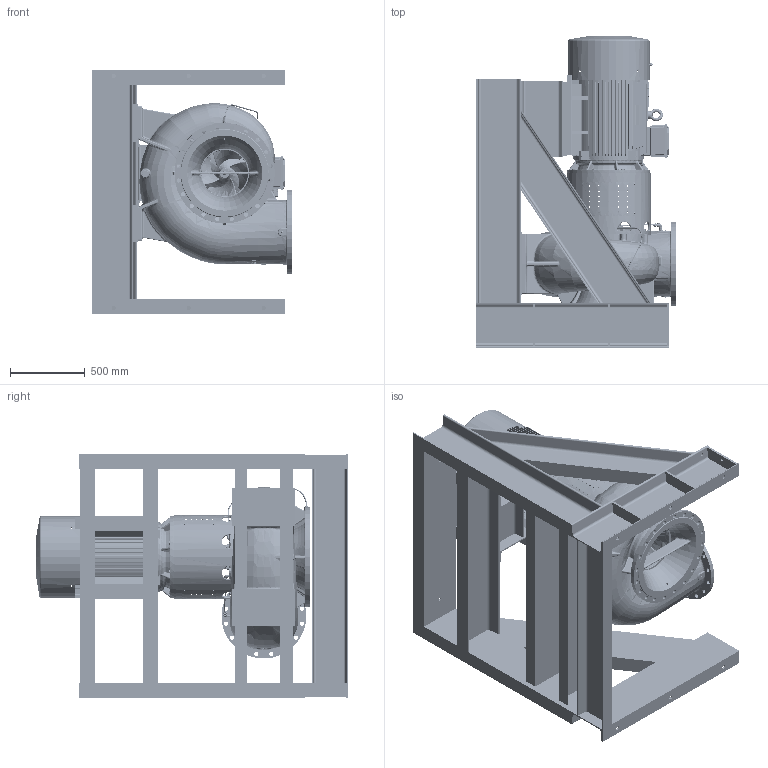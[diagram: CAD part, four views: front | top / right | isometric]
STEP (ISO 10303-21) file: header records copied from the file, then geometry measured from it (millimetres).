
FILE_DESCRIPTION((''),'2;1');
FILE_NAME('NSLV400-390_A02_FO_ASM','2024-05-28T',('maxz'),(''),'PRO/ENGINEER BY PARAMETRIC TECHNOLOGY CORPORATION, 2017170','PRO/ENGINEER BY PARAMETRIC TECHNOLOGY CORPORATION, 2017170','');
FILE_SCHEMA(('CONFIG_CONTROL_DESIGN'));
Products named in the file (53): 118708; 599030; 596710; 596450; 599100; 110198; 117305; 700952; 506841; 107290; 725990_1; 725990_2; 725990_ASM; 707471; 704276; 704371; 704268; 697856_ASM; 107293; 107291; 107294; 107292; 506704; 704020; 717872; 717871; 703336; 710912; 704067; 707566; 700324; 705173; 709603; 700923; 704188; 506953; 704189; 506954; 704390; 712398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
Assembly tree (105 placements, depth 5):
  NSLV400-390_A02_FO_ASM
    118708
    697841_ASM
      599030
      596710
      596450
      599100
      697856_ASM
        110198
        117305
        700952  x2
        506841
        107290
        725990_ASM
          725990_1
          725990_2
        707471
        704276
        704371  x4
        704268
      107293
      107291
      107294
      107292
      506704
      704020
      717872
      717871
      703336  x4
      710912  x6
      704067  x8
      707566  x8
      700324  x8
      705173
      709603
      700923
      704188
      506953
      704189
      506954
      704390  x3
      712398
      718563  x2
      714915  x2
      708438
      708437
    697847_ASM
      599070
      117484_AF0  x2
      720488  x8
      110851
      703207
      700324  x8
    854582
Bounding box: 1335 x 2078.5 x 1630 mm (x, y, z)
Volume: 320051190.8 mm3; surface area: 33009210.1 mm2
Topology: 134 solids, 221 shells, 8314 faces, 21198 edges, 13371 vertices
Faces by surface type: plane 2635, cylinder 1870, bspline 1346, cone 1054, extrusion 723, torus 528, sphere 152, revolution 6
Entity records: 466322 total; most frequent: CARTESIAN_POINT 301584, ORIENTED_EDGE 36708, DIRECTION 29320, EDGE_CURVE 18514, VERTEX_POINT 11810, AXIS2_PLACEMENT_3D 11125, EDGE_LOOP 8054, B_SPLINE_CURVE_WITH_KNOTS 7265
